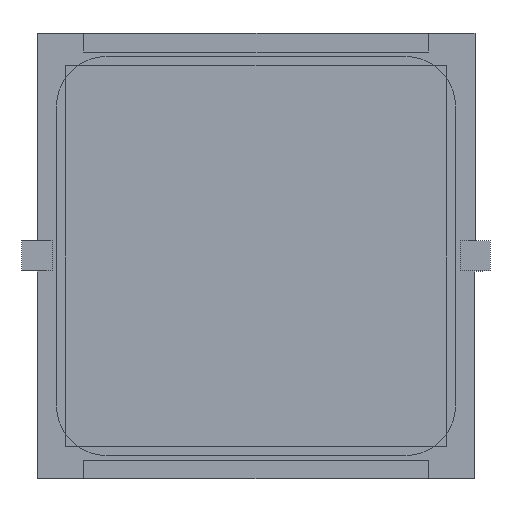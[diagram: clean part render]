
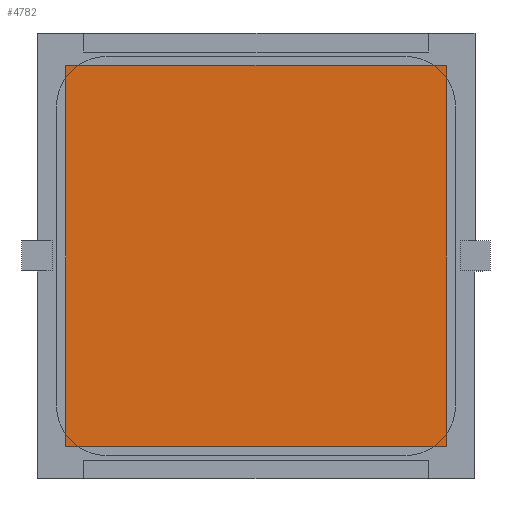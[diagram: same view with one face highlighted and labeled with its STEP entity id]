
A CAD part, front view. The second image highlights one B-rep face of the part: STEP entity #4782.
In plain terms, the highlighted planar face has unit normal (0, -1, 0).
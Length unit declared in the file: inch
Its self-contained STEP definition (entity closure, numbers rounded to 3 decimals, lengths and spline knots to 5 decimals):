
#343 = EDGE_CURVE ( 'NONE', #2720, #4250, #2723, .T. ) ;
#392 = CARTESIAN_POINT ( 'NONE',  ( 0.5, -0.005, -0.5 ) ) ;
#508 = FACE_OUTER_BOUND ( 'NONE', #7489, .T. ) ;
#1735 = CARTESIAN_POINT ( 'NONE',  ( 0.5, -0.005, -0.5 ) ) ;
#1950 = ORIENTED_EDGE ( 'NONE', *, *, #3878, .F. ) ;
#2012 = CARTESIAN_POINT ( 'NONE',  ( -0.5, -0.005, -0.5 ) ) ;
#2272 = PLANE ( 'NONE',  #4306 ) ;
#2442 = LINE ( 'NONE', #3155, #3724 ) ;
#2534 = ORIENTED_EDGE ( 'NONE', *, *, #4025, .F. ) ;
#2720 = VERTEX_POINT ( 'NONE', #3031 ) ;
#2723 = LINE ( 'NONE', #7456, #6921 ) ;
#2830 = VECTOR ( 'NONE', #3074, 39.37008 ) ;
#3031 = CARTESIAN_POINT ( 'NONE',  ( -0.5, -0.005, 0.5 ) ) ;
#3035 = VECTOR ( 'NONE', #6425, 39.37008 ) ;
#3074 = DIRECTION ( 'NONE',  ( 0., 0., 1. ) ) ;
#3155 = CARTESIAN_POINT ( 'NONE',  ( -0.5, -0.005, -0.5 ) ) ;
#3558 = VERTEX_POINT ( 'NONE', #2012 ) ;
#3651 = CARTESIAN_POINT ( 'NONE',  ( -0.5, -0.005, -0.5 ) ) ;
#3724 = VECTOR ( 'NONE', #3752, 39.37008 ) ;
#3738 = LINE ( 'NONE', #3651, #2830 ) ;
#3752 = DIRECTION ( 'NONE',  ( -1., 0., 0. ) ) ;
#3878 = EDGE_CURVE ( 'NONE', #4650, #3558, #2442, .T. ) ;
#4025 = EDGE_CURVE ( 'NONE', #4250, #4650, #7079, .T. ) ;
#4036 = DIRECTION ( 'NONE',  ( 0., 1., 0. ) ) ;
#4250 = VERTEX_POINT ( 'NONE', #6869 ) ;
#4306 = AXIS2_PLACEMENT_3D ( 'NONE', #4667, #4036, #7682 ) ;
#4650 = VERTEX_POINT ( 'NONE', #392 ) ;
#4667 = CARTESIAN_POINT ( 'NONE',  ( -0.5, -0.005, 0.5 ) ) ;
#4693 = ORIENTED_EDGE ( 'NONE', *, *, #5117, .F. ) ;
#4782 = ADVANCED_FACE ( 'NONE', ( #508 ), #2272, .F. ) ;
#4957 = DIRECTION ( 'NONE',  ( 1., 0., 0. ) ) ;
#5117 = EDGE_CURVE ( 'NONE', #3558, #2720, #3738, .T. ) ;
#5809 = ORIENTED_EDGE ( 'NONE', *, *, #343, .F. ) ;
#6425 = DIRECTION ( 'NONE',  ( 0., 0., -1. ) ) ;
#6869 = CARTESIAN_POINT ( 'NONE',  ( 0.5, -0.005, 0.5 ) ) ;
#6921 = VECTOR ( 'NONE', #4957, 39.37008 ) ;
#7079 = LINE ( 'NONE', #1735, #3035 ) ;
#7456 = CARTESIAN_POINT ( 'NONE',  ( -0.5, -0.005, 0.5 ) ) ;
#7489 = EDGE_LOOP ( 'NONE', ( #4693, #1950, #2534, #5809 ) ) ;
#7682 = DIRECTION ( 'NONE',  ( 0., 0., 1. ) ) ;
